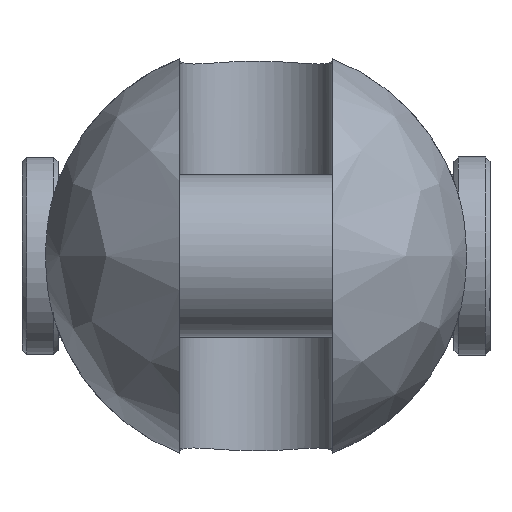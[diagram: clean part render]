
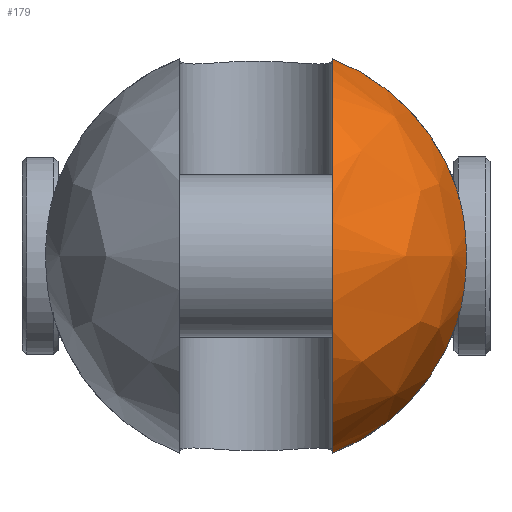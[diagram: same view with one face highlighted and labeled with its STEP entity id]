
A CAD part, left-side view. The second image highlights one B-rep face of the part: STEP entity #179.
In plain terms, the highlighted free-form (B-spline) face has degree [2, 2] with [9, 5] control points.
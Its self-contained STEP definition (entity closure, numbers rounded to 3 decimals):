
#179=ADVANCED_FACE('',(#320),#2417,.T.);
#320=FACE_OUTER_BOUND('',#481,.T.);
#481=EDGE_LOOP('',(#1194,#1195,#1196,#1197));
#1194=ORIENTED_EDGE('',*,*,#1579,.T.);
#1195=ORIENTED_EDGE('',*,*,#1601,.F.);
#1196=ORIENTED_EDGE('',*,*,#1611,.T.);
#1197=ORIENTED_EDGE('',*,*,#1595,.F.);
#1579=EDGE_CURVE('',#2249,#2248,#1983,.T.);
#1595=EDGE_CURVE('',#2249,#2261,#1993,.T.);
#1601=EDGE_CURVE('',#2268,#2248,#1994,.T.);
#1611=EDGE_CURVE('',#2268,#2261,#1785,.T.);
#1785=B_SPLINE_CURVE_WITH_KNOTS('',3,(#6051,#6052,#6053,#6054,#6055,#6056,
#6057,#6058,#6059,#6060,#6061,#6062,#6063,#6064),.UNSPECIFIED.,.F.,.F.,
(4,2,2,2,2,2,4),(0.,0.489,4.249,8.01,
11.771,15.532,16.021),.UNSPECIFIED.);
#1983=(
BOUNDED_CURVE()
B_SPLINE_CURVE(2,(#5899,#5900,#5901,#5902,#5903),.UNSPECIFIED.,.F.,.F.)
B_SPLINE_CURVE_WITH_KNOTS((3,2,3),(-68.829,-34.414,
0.),.UNSPECIFIED.)
CURVE()
GEOMETRIC_REPRESENTATION_ITEM()
RATIONAL_B_SPLINE_CURVE((1.,0.707,1.,0.707,1.))
REPRESENTATION_ITEM('')
);
#1993=(
BOUNDED_CURVE()
B_SPLINE_CURVE(2,(#5977,#5978,#5979),.UNSPECIFIED.,.F.,.F.)
B_SPLINE_CURVE_WITH_KNOTS((3,3),(0.,20.761),.UNSPECIFIED.)
CURVE()
GEOMETRIC_REPRESENTATION_ITEM()
RATIONAL_B_SPLINE_CURVE((1.,0.904,1.))
REPRESENTATION_ITEM('')
);
#1994=(
BOUNDED_CURVE()
B_SPLINE_CURVE(2,(#6006,#6007,#6008),.UNSPECIFIED.,.F.,.F.)
B_SPLINE_CURVE_WITH_KNOTS((3,3),(0.,20.761),.UNSPECIFIED.)
CURVE()
GEOMETRIC_REPRESENTATION_ITEM()
RATIONAL_B_SPLINE_CURVE((1.,0.904,1.))
REPRESENTATION_ITEM('')
);
#2248=VERTEX_POINT('',#5767);
#2249=VERTEX_POINT('',#5768);
#2261=VERTEX_POINT('',#5780);
#2268=VERTEX_POINT('',#5787);
#2417=(
BOUNDED_SURFACE()
B_SPLINE_SURFACE(2,2,((#5481,#5482,#5483,#5484,#5485),(#5486,#5487,#5488,
#5489,#5490),(#5491,#5492,#5493,#5494,#5495),(#5496,#5497,#5498,#5499,#5500),
(#5501,#5502,#5503,#5504,#5505),(#5506,#5507,#5508,#5509,#5510),(#5511,
#5512,#5513,#5514,#5515),(#5516,#5517,#5518,#5519,#5520),(#5521,#5522,#5523,
#5524,#5525)),.UNSPECIFIED.,.T.,.F.,.F.)
B_SPLINE_SURFACE_WITH_KNOTS((3,2,2,2,3),(3,2,3),(0.,36.914,73.827,
110.741,147.655),(0.,36.914,73.827),
 .UNSPECIFIED.)
GEOMETRIC_REPRESENTATION_ITEM()
RATIONAL_B_SPLINE_SURFACE(((1.,0.707,1.,0.707,1.),
(0.707,0.5,0.707,0.5,0.707),(1.,0.707,
1.,0.707,1.),(0.707,0.5,0.707,0.5,0.707),
(1.,0.707,1.,0.707,1.),(0.707,0.5,0.707,
0.5,0.707),(1.,0.707,1.,0.707,1.),(0.707,
0.5,0.707,0.5,0.707),(1.,0.707,1.,0.707,
1.)))
REPRESENTATION_ITEM('')
SURFACE()
);
#5481=CARTESIAN_POINT('',(-33.,0.,0.));
#5482=CARTESIAN_POINT('',(-33.,23.5,0.));
#5483=CARTESIAN_POINT('',(-9.5,23.5,0.));
#5484=CARTESIAN_POINT('',(14.,23.5,0.));
#5485=CARTESIAN_POINT('',(14.,0.,0.));
#5486=CARTESIAN_POINT('',(-33.,0.,0.));
#5487=CARTESIAN_POINT('',(-33.,23.5,23.5));
#5488=CARTESIAN_POINT('',(-9.5,23.5,23.5));
#5489=CARTESIAN_POINT('',(14.,23.5,23.5));
#5490=CARTESIAN_POINT('',(14.,0.,0.));
#5491=CARTESIAN_POINT('',(-33.,0.,0.));
#5492=CARTESIAN_POINT('',(-33.,0.,23.5));
#5493=CARTESIAN_POINT('',(-9.5,0.,23.5));
#5494=CARTESIAN_POINT('',(14.,0.,23.5));
#5495=CARTESIAN_POINT('',(14.,0.,0.));
#5496=CARTESIAN_POINT('',(-33.,0.,0.));
#5497=CARTESIAN_POINT('',(-33.,-23.5,23.5));
#5498=CARTESIAN_POINT('',(-9.5,-23.5,23.5));
#5499=CARTESIAN_POINT('',(14.,-23.5,23.5));
#5500=CARTESIAN_POINT('',(14.,0.,0.));
#5501=CARTESIAN_POINT('',(-33.,0.,0.));
#5502=CARTESIAN_POINT('',(-33.,-23.5,0.));
#5503=CARTESIAN_POINT('',(-9.5,-23.5,0.));
#5504=CARTESIAN_POINT('',(14.,-23.5,0.));
#5505=CARTESIAN_POINT('',(14.,0.,0.));
#5506=CARTESIAN_POINT('',(-33.,0.,0.));
#5507=CARTESIAN_POINT('',(-33.,-23.5,-23.5));
#5508=CARTESIAN_POINT('',(-9.5,-23.5,-23.5));
#5509=CARTESIAN_POINT('',(14.,-23.5,-23.5));
#5510=CARTESIAN_POINT('',(14.,0.,0.));
#5511=CARTESIAN_POINT('',(-33.,0.,0.));
#5512=CARTESIAN_POINT('',(-33.,0.,-23.5));
#5513=CARTESIAN_POINT('',(-9.5,0.,-23.5));
#5514=CARTESIAN_POINT('',(14.,0.,-23.5));
#5515=CARTESIAN_POINT('',(14.,0.,0.));
#5516=CARTESIAN_POINT('',(-33.,0.,0.));
#5517=CARTESIAN_POINT('',(-33.,23.5,-23.5));
#5518=CARTESIAN_POINT('',(-9.5,23.5,-23.5));
#5519=CARTESIAN_POINT('',(14.,23.5,-23.5));
#5520=CARTESIAN_POINT('',(14.,0.,0.));
#5521=CARTESIAN_POINT('',(-33.,0.,0.));
#5522=CARTESIAN_POINT('',(-33.,23.5,0.));
#5523=CARTESIAN_POINT('',(-9.5,23.5,0.));
#5524=CARTESIAN_POINT('',(14.,23.5,0.));
#5525=CARTESIAN_POINT('',(14.,0.,0.));
#5767=CARTESIAN_POINT('',(-9.5,-8.5,-21.909));
#5768=CARTESIAN_POINT('',(-9.5,-8.5,21.909));
#5780=CARTESIAN_POINT('',(-9.5,-22.327,7.331));
#5787=CARTESIAN_POINT('',(-9.5,-22.327,-7.331));
#5899=CARTESIAN_POINT('',(-9.5,-8.5,21.909));
#5900=CARTESIAN_POINT('',(-31.409,-8.5,21.909));
#5901=CARTESIAN_POINT('',(-31.409,-8.5,0.));
#5902=CARTESIAN_POINT('',(-31.409,-8.5,-21.909));
#5903=CARTESIAN_POINT('',(-9.5,-8.5,-21.909));
#5977=CARTESIAN_POINT('',(-9.5,-8.5,21.909));
#5978=CARTESIAN_POINT('',(-9.5,-18.86,17.889));
#5979=CARTESIAN_POINT('',(-9.5,-22.327,7.331));
#6006=CARTESIAN_POINT('',(-9.5,-22.327,-7.331));
#6007=CARTESIAN_POINT('',(-9.5,-18.86,-17.889));
#6008=CARTESIAN_POINT('',(-9.5,-8.5,-21.909));
#6051=CARTESIAN_POINT('',(-9.5,-22.327,-7.331));
#6052=CARTESIAN_POINT('',(-9.593,-22.367,-7.211));
#6053=CARTESIAN_POINT('',(-9.683,-22.405,-7.089));
#6054=CARTESIAN_POINT('',(-10.443,-22.726,-6.024));
#6055=CARTESIAN_POINT('',(-11.032,-22.97,-4.89));
#6056=CARTESIAN_POINT('',(-11.811,-23.29,-2.474));
#6057=CARTESIAN_POINT('',(-12.,-23.367,-1.192));
#6058=CARTESIAN_POINT('',(-12.,-23.367,1.192));
#6059=CARTESIAN_POINT('',(-11.811,-23.29,2.474));
#6060=CARTESIAN_POINT('',(-11.032,-22.97,4.89));
#6061=CARTESIAN_POINT('',(-10.443,-22.726,6.024));
#6062=CARTESIAN_POINT('',(-9.683,-22.405,7.089));
#6063=CARTESIAN_POINT('',(-9.593,-22.367,7.211));
#6064=CARTESIAN_POINT('',(-9.5,-22.327,7.331));
